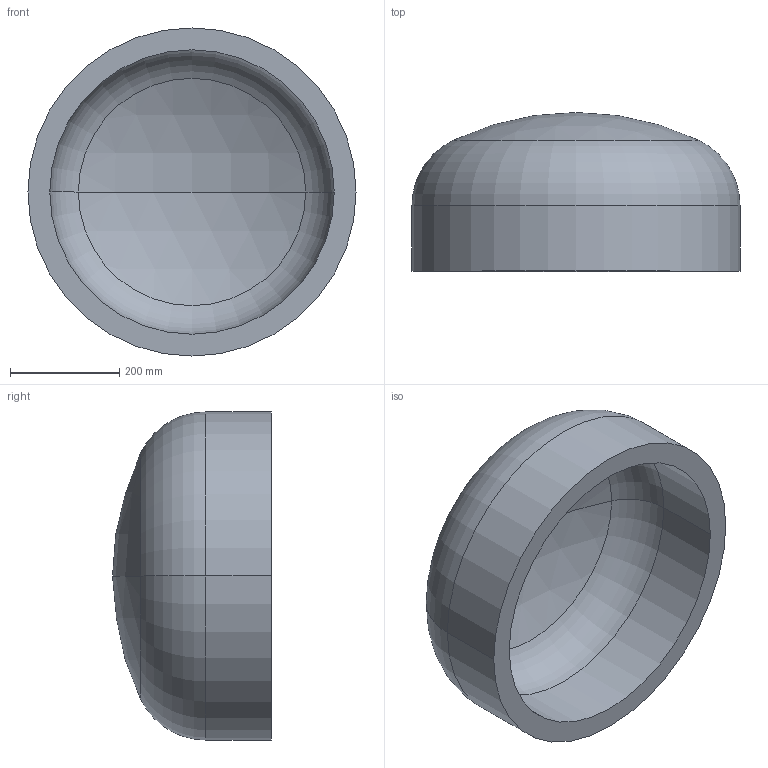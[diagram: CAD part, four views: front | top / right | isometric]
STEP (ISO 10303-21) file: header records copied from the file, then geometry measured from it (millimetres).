
FILE_DESCRIPTION (( 'STEP AP203' ), '1' );
FILE_NAME ('DIN 28013 Korbbogenform_-_Boden DIN 28013 - 600 x 120 - I - s=40.step', '2016-07-01T08:00:25', ( '' ), ( '' ), 'SwSTEP 2.0', 'SolidWorks 2013', '' );
FILE_SCHEMA (( 'CONFIG_CONTROL_DESIGN' ));
Length unit declared in the file: millimetre
Products named in the file (1): DIN 28013 Korbbogenform_-_Boden DIN 28013 - 600 x 120 - I - s=40
Bounding box: 600 x 290.26 x 600 mm (x, y, z)
Volume: 22825785.2 mm3; surface area: 1215011.8 mm2
Topology: 1 solids, 1 shells, 13 faces, 24 edges, 14 vertices
Faces by surface type: torus 4, cylinder 4, sphere 4, plane 1
Entity records: 407 total; most frequent: DIRECTION 72, CARTESIAN_POINT 52, ORIENTED_EDGE 48, AXIS2_PLACEMENT_3D 34, EDGE_CURVE 24, CIRCLE 20, VERTEX_POINT 14, EDGE_LOOP 14
